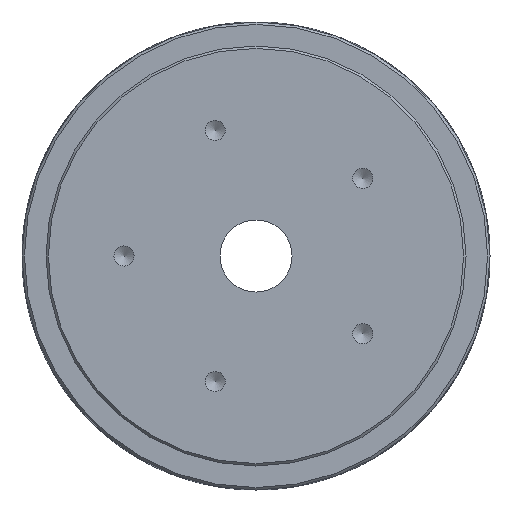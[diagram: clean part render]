
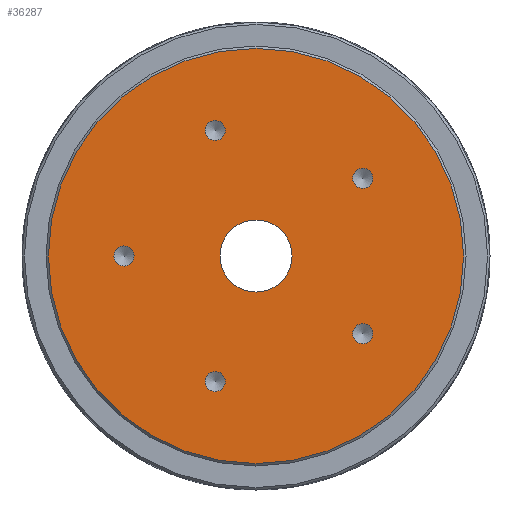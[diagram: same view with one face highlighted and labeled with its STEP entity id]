
A CAD part, left-side view. The second image highlights one B-rep face of the part: STEP entity #36287.
In plain terms, the highlighted planar face has unit normal (-1, 0, 0).
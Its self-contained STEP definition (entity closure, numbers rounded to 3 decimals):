
#2512=FACE_BOUND('',#6313,.T.);
#2513=FACE_BOUND('',#6314,.T.);
#2514=FACE_BOUND('',#6315,.T.);
#2515=FACE_BOUND('',#6316,.T.);
#2516=FACE_BOUND('',#6317,.T.);
#2517=FACE_BOUND('',#6318,.T.);
#2560=PLANE('',#38287);
#4377=FACE_OUTER_BOUND('',#6312,.T.);
#6312=EDGE_LOOP('',(#23135));
#6313=EDGE_LOOP('',(#23136));
#6314=EDGE_LOOP('',(#23137));
#6315=EDGE_LOOP('',(#23138));
#6316=EDGE_LOOP('',(#23139));
#6317=EDGE_LOOP('',(#23140));
#6318=EDGE_LOOP('',(#23141));
#8260=CIRCLE('',#38243,15.);
#8276=CIRCLE('',#38268,4.188);
#8278=CIRCLE('',#38272,4.188);
#8280=CIRCLE('',#38276,4.188);
#8282=CIRCLE('',#38280,4.188);
#8284=CIRCLE('',#38284,4.188);
#8286=CIRCLE('',#38288,86.5);
#13598=VERTEX_POINT('',#56870);
#13620=VERTEX_POINT('',#56935);
#13623=VERTEX_POINT('',#56944);
#13626=VERTEX_POINT('',#56953);
#13629=VERTEX_POINT('',#56962);
#13632=VERTEX_POINT('',#56971);
#13635=VERTEX_POINT('',#56980);
#17368=EDGE_CURVE('',#13598,#13598,#8260,.T.);
#17401=EDGE_CURVE('',#13620,#13620,#8276,.T.);
#17405=EDGE_CURVE('',#13623,#13623,#8278,.T.);
#17409=EDGE_CURVE('',#13626,#13626,#8280,.T.);
#17413=EDGE_CURVE('',#13629,#13629,#8282,.T.);
#17417=EDGE_CURVE('',#13632,#13632,#8284,.T.);
#17421=EDGE_CURVE('',#13635,#13635,#8286,.T.);
#23135=ORIENTED_EDGE('',*,*,#17421,.F.);
#23136=ORIENTED_EDGE('',*,*,#17368,.T.);
#23137=ORIENTED_EDGE('',*,*,#17401,.T.);
#23138=ORIENTED_EDGE('',*,*,#17405,.T.);
#23139=ORIENTED_EDGE('',*,*,#17409,.T.);
#23140=ORIENTED_EDGE('',*,*,#17413,.T.);
#23141=ORIENTED_EDGE('',*,*,#17417,.T.);
#36287=ADVANCED_FACE('',(#4377,#2512,#2513,#2514,#2515,#2516,#2517),#2560,
 .T.);
#38243=AXIS2_PLACEMENT_3D('',#56872,#43727,#43728);
#38268=AXIS2_PLACEMENT_3D('',#56936,#43794,#43795);
#38272=AXIS2_PLACEMENT_3D('',#56945,#43804,#43805);
#38276=AXIS2_PLACEMENT_3D('',#56954,#43814,#43815);
#38280=AXIS2_PLACEMENT_3D('',#56963,#43824,#43825);
#38284=AXIS2_PLACEMENT_3D('',#56972,#43834,#43835);
#38287=AXIS2_PLACEMENT_3D('',#56979,#43842,#43843);
#38288=AXIS2_PLACEMENT_3D('',#56981,#43844,#43845);
#43727=DIRECTION('center_axis',(1.,0.,0.));
#43728=DIRECTION('ref_axis',(0.,1.,0.));
#43794=DIRECTION('center_axis',(1.,0.,0.));
#43795=DIRECTION('ref_axis',(0.,0.,1.));
#43804=DIRECTION('center_axis',(1.,0.,0.));
#43805=DIRECTION('ref_axis',(0.,0.,1.));
#43814=DIRECTION('center_axis',(1.,0.,0.));
#43815=DIRECTION('ref_axis',(0.,0.,1.));
#43824=DIRECTION('center_axis',(1.,0.,0.));
#43825=DIRECTION('ref_axis',(0.,0.,1.));
#43834=DIRECTION('center_axis',(1.,0.,0.));
#43835=DIRECTION('ref_axis',(0.,0.,1.));
#43842=DIRECTION('center_axis',(-1.,0.,0.));
#43843=DIRECTION('ref_axis',(0.,0.,1.));
#43844=DIRECTION('center_axis',(1.,0.,0.));
#43845=DIRECTION('ref_axis',(0.,-1.,0.));
#56870=CARTESIAN_POINT('',(-19.25,-15.,0.));
#56872=CARTESIAN_POINT('Origin',(-19.25,0.,0.));
#56935=CARTESIAN_POINT('',(-19.25,55.,-4.188));
#56936=CARTESIAN_POINT('Origin',(-19.25,55.,0.));
#56944=CARTESIAN_POINT('',(-19.25,16.996,-56.496));
#56945=CARTESIAN_POINT('Origin',(-19.25,16.996,-52.308));
#56953=CARTESIAN_POINT('',(-19.25,-44.496,-36.516));
#56954=CARTESIAN_POINT('Origin',(-19.25,-44.496,-32.328));
#56962=CARTESIAN_POINT('',(-19.25,-44.496,28.14));
#56963=CARTESIAN_POINT('Origin',(-19.25,-44.496,32.328));
#56971=CARTESIAN_POINT('',(-19.25,16.996,48.12));
#56972=CARTESIAN_POINT('Origin',(-19.25,16.996,52.308));
#56979=CARTESIAN_POINT('Origin',(-19.25,51.25,0.));
#56980=CARTESIAN_POINT('',(-19.25,86.5,0.));
#56981=CARTESIAN_POINT('Origin',(-19.25,0.,0.));
